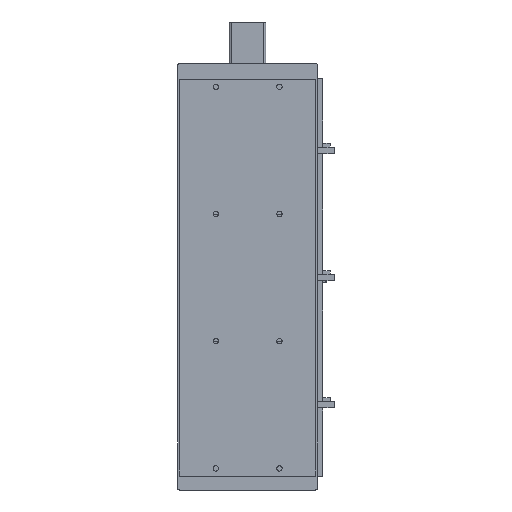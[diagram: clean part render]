
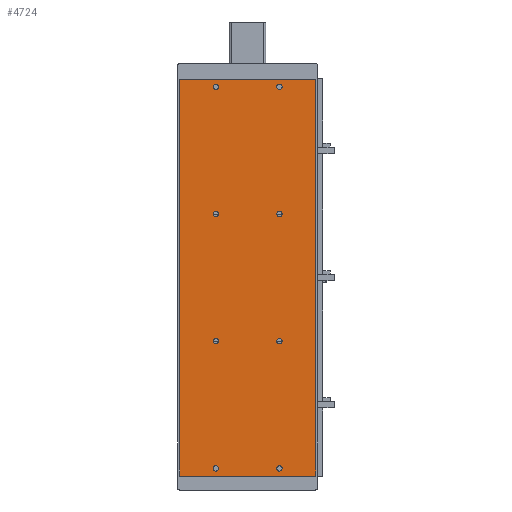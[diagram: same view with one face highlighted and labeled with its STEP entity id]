
A CAD part, front view. The second image highlights one B-rep face of the part: STEP entity #4724.
In plain terms, the highlighted planar face has unit normal (0, -1, 0).
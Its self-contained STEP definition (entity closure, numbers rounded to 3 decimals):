
#3500=CARTESIAN_POINT('',(-107.,0.0,624.0));
#3501=VERTEX_POINT('',#3500);
#3508=CARTESIAN_POINT('',(107.,0.0,624.0));
#3509=VERTEX_POINT('',#3508);
#3510=CARTESIAN_POINT('',(107.,0.0,624.0));
#3511=DIRECTION('',(-1.0,0.0,0.0));
#3512=VECTOR('',#3511,214.);
#3513=LINE('',#3510,#3512);
#3514=EDGE_CURVE('',#3509,#3501,#3513,.T.);
#3694=CARTESIAN_POINT('',(107.,0.0,0.0));
#3695=VERTEX_POINT('',#3694);
#3702=CARTESIAN_POINT('',(-107.,0.0,0.0));
#3703=VERTEX_POINT('',#3702);
#3704=CARTESIAN_POINT('',(-107.,0.0,0.0));
#3705=DIRECTION('',(1.0,0.0,0.0));
#3706=VECTOR('',#3705,214.);
#3707=LINE('',#3704,#3706);
#3708=EDGE_CURVE('',#3703,#3695,#3707,.T.);
#3745=CARTESIAN_POINT('',(-54.249,0.0,612.0));
#3746=VERTEX_POINT('',#3745);
#3747=CARTESIAN_POINT('',(-49.999,0.0,612.0));
#3748=DIRECTION('',(0.0,1.0,0.0));
#3749=DIRECTION('',(1.0,0.0,0.0));
#3750=AXIS2_PLACEMENT_3D('',#3747,#3748,#3749);
#3751=CIRCLE('',#3750,4.25);
#3752=EDGE_CURVE('',#3746,#3746,#3751,.T.);
#3924=CARTESIAN_POINT('',(45.751,0.0,612.0));
#3925=VERTEX_POINT('',#3924);
#3926=CARTESIAN_POINT('',(50.001,0.0,612.0));
#3927=DIRECTION('',(0.0,1.0,0.0));
#3928=DIRECTION('',(1.0,0.0,0.0));
#3929=AXIS2_PLACEMENT_3D('',#3926,#3927,#3928);
#3930=CIRCLE('',#3929,4.25);
#3931=EDGE_CURVE('',#3925,#3925,#3930,.T.);
#3965=CARTESIAN_POINT('',(-54.249,0.0,212.));
#3966=VERTEX_POINT('',#3965);
#3967=CARTESIAN_POINT('',(-49.999,0.0,212.));
#3968=DIRECTION('',(0.0,1.0,0.0));
#3969=DIRECTION('',(1.0,0.0,0.0));
#3970=AXIS2_PLACEMENT_3D('',#3967,#3968,#3969);
#3971=CIRCLE('',#3970,4.25);
#3972=EDGE_CURVE('',#3966,#3966,#3971,.T.);
#4144=CARTESIAN_POINT('',(45.751,0.0,212.));
#4145=VERTEX_POINT('',#4144);
#4146=CARTESIAN_POINT('',(50.001,0.0,212.));
#4147=DIRECTION('',(0.0,1.0,0.0));
#4148=DIRECTION('',(1.0,0.0,0.0));
#4149=AXIS2_PLACEMENT_3D('',#4146,#4147,#4148);
#4150=CIRCLE('',#4149,4.25);
#4151=EDGE_CURVE('',#4145,#4145,#4150,.T.);
#4185=CARTESIAN_POINT('',(-54.249,0.0,12.));
#4186=VERTEX_POINT('',#4185);
#4187=CARTESIAN_POINT('',(-49.999,0.0,12.));
#4188=DIRECTION('',(0.0,1.0,0.0));
#4189=DIRECTION('',(1.0,0.0,0.0));
#4190=AXIS2_PLACEMENT_3D('',#4187,#4188,#4189);
#4191=CIRCLE('',#4190,4.25);
#4192=EDGE_CURVE('',#4186,#4186,#4191,.T.);
#4364=CARTESIAN_POINT('',(45.751,0.0,12.));
#4365=VERTEX_POINT('',#4364);
#4366=CARTESIAN_POINT('',(50.001,0.0,12.));
#4367=DIRECTION('',(0.0,1.0,0.0));
#4368=DIRECTION('',(1.0,0.0,0.0));
#4369=AXIS2_PLACEMENT_3D('',#4366,#4367,#4368);
#4370=CIRCLE('',#4369,4.25);
#4371=EDGE_CURVE('',#4365,#4365,#4370,.T.);
#4474=CARTESIAN_POINT('',(45.751,0.0,412.0));
#4475=VERTEX_POINT('',#4474);
#4476=CARTESIAN_POINT('',(50.001,0.0,412.0));
#4477=DIRECTION('',(0.0,1.0,0.0));
#4478=DIRECTION('',(1.0,0.0,0.0));
#4479=AXIS2_PLACEMENT_3D('',#4476,#4477,#4478);
#4480=CIRCLE('',#4479,4.25);
#4481=EDGE_CURVE('',#4475,#4475,#4480,.T.);
#4584=CARTESIAN_POINT('',(-54.249,0.0,412.0));
#4585=VERTEX_POINT('',#4584);
#4586=CARTESIAN_POINT('',(-49.999,0.0,412.0));
#4587=DIRECTION('',(0.0,1.0,0.0));
#4588=DIRECTION('',(1.0,0.0,0.0));
#4589=AXIS2_PLACEMENT_3D('',#4586,#4587,#4588);
#4590=CIRCLE('',#4589,4.25);
#4591=EDGE_CURVE('',#4585,#4585,#4590,.T.);
#4611=CARTESIAN_POINT('',(107.,0.0,0.0));
#4612=DIRECTION('',(0.0,0.0,1.0));
#4613=VECTOR('',#4612,624.0);
#4614=LINE('',#4611,#4613);
#4615=EDGE_CURVE('',#3695,#3509,#4614,.T.);
#4633=CARTESIAN_POINT('',(-107.,0.0,0.0));
#4634=DIRECTION('',(0.0,0.0,1.0));
#4635=VECTOR('',#4634,624.0);
#4636=LINE('',#4633,#4635);
#4637=EDGE_CURVE('',#3703,#3501,#4636,.T.);
#4689=CARTESIAN_POINT('',(107.,0.0,0.0));
#4690=DIRECTION('',(0.0,-1.0,0.0));
#4691=DIRECTION('',(0.0,0.0,-1.0));
#4692=AXIS2_PLACEMENT_3D('',#4689,#4690,#4691);
#4693=PLANE('',#4692);
#4694=ORIENTED_EDGE('',*,*,#3514,.T.);
#4695=ORIENTED_EDGE('',*,*,#4637,.F.);
#4696=ORIENTED_EDGE('',*,*,#3708,.T.);
#4697=ORIENTED_EDGE('',*,*,#4615,.T.);
#4698=EDGE_LOOP('',(#4694,#4695,#4696,#4697));
#4699=FACE_OUTER_BOUND('',#4698,.T.);
#4700=ORIENTED_EDGE('',*,*,#3752,.T.);
#4701=EDGE_LOOP('',(#4700));
#4702=FACE_BOUND('',#4701,.T.);
#4703=ORIENTED_EDGE('',*,*,#3931,.T.);
#4704=EDGE_LOOP('',(#4703));
#4705=FACE_BOUND('',#4704,.T.);
#4706=ORIENTED_EDGE('',*,*,#3972,.T.);
#4707=EDGE_LOOP('',(#4706));
#4708=FACE_BOUND('',#4707,.T.);
#4709=ORIENTED_EDGE('',*,*,#4151,.T.);
#4710=EDGE_LOOP('',(#4709));
#4711=FACE_BOUND('',#4710,.T.);
#4712=ORIENTED_EDGE('',*,*,#4192,.T.);
#4713=EDGE_LOOP('',(#4712));
#4714=FACE_BOUND('',#4713,.T.);
#4715=ORIENTED_EDGE('',*,*,#4371,.T.);
#4716=EDGE_LOOP('',(#4715));
#4717=FACE_BOUND('',#4716,.T.);
#4718=ORIENTED_EDGE('',*,*,#4481,.T.);
#4719=EDGE_LOOP('',(#4718));
#4720=FACE_BOUND('',#4719,.T.);
#4721=ORIENTED_EDGE('',*,*,#4591,.T.);
#4722=EDGE_LOOP('',(#4721));
#4723=FACE_BOUND('',#4722,.T.);
#4724=ADVANCED_FACE('',(#4699,#4702,#4705,#4708,#4711,#4714,#4717,#4720,#4723),#4693,.T.);
